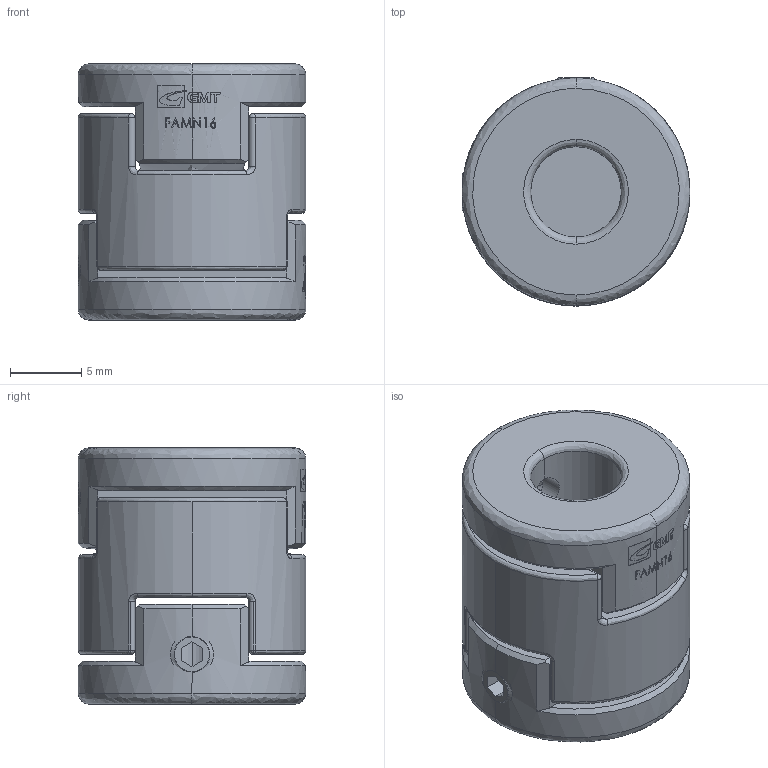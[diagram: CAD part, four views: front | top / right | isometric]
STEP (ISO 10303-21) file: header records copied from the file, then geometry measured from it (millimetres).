
FILE_DESCRIPTION (( 'STEP AP203' ), '1' );
FILE_NAME ('FAMN16.STEP', '2008-04-05T06:49:09', ( '陳志豪' ), ( '高明鐵企業股份有限公司' ), 'SwSTEP 2.0', 'SolidWorks 2007', '' );
FILE_SCHEMA (( 'CONFIG_CONTROL_DESIGN' ));
Length unit declared in the file: millimetre
Products named in the file (1): FAMN16
Bounding box: 16 x 16 x 18 mm (x, y, z)
Surface area: 2416.1 mm2 (no closed solid volume)
Topology: 0 solids, 7 shells, 333 faces, 915 edges, 592 vertices
Faces by surface type: plane 125, bspline 121, cylinder 65, cone 22
Entity records: 14058 total; most frequent: CARTESIAN_POINT 6889, ORIENTED_EDGE 1742, DIRECTION 955, EDGE_CURVE 900, VERTEX_POINT 592, B_SPLINE_CURVE_WITH_KNOTS 478, EDGE_LOOP 367, ADVANCED_FACE 333
